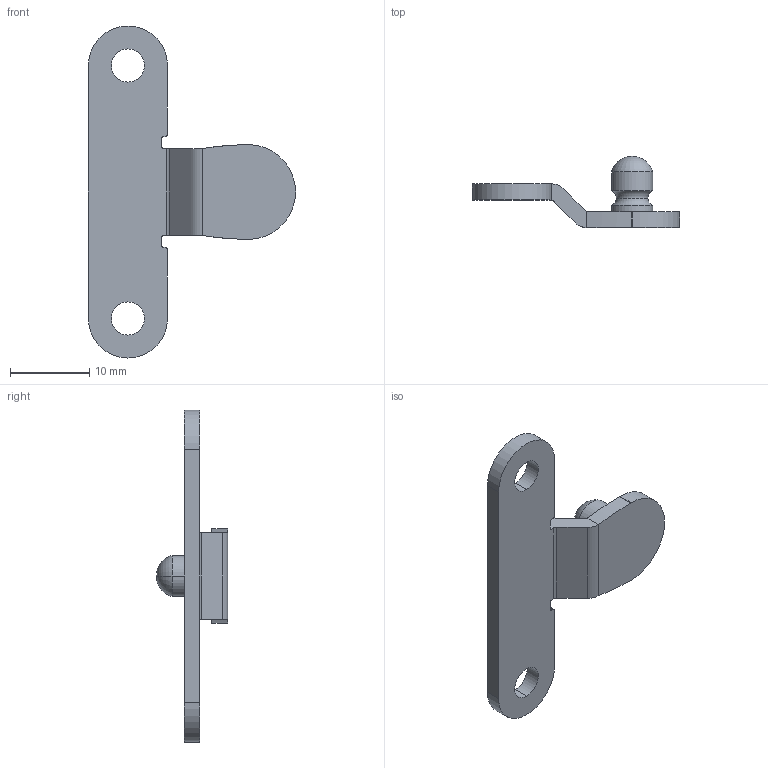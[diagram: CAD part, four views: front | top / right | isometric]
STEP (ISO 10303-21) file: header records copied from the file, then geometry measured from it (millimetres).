
FILE_DESCRIPTION (( 'STEP AP203' ), '1' );
FILE_NAME ('Anschraubwinkel_T-105_Alurahmen_D2659526125~0.step', '2012-05-04T06:19:48', ( 'admin' ), ( 'Hewlett-Packard Company' ), 'SwSTEP 2.0', 'SolidWorks 2011', '' );
FILE_SCHEMA (( 'CONFIG_CONTROL_DESIGN' ));
Length unit declared in the file: millimetre
Products named in the file (1): Anschraubwinkel_T-105_Alurahmen_D2659526125~0
Bounding box: 26.2 x 9 x 42 mm (x, y, z)
Volume: 1232.3 mm3; surface area: 1518.8 mm2
Topology: 1 solids, 1 shells, 47 faces, 127 edges, 81 vertices
Faces by surface type: cylinder 26, plane 15, torus 6
Entity records: 1572 total; most frequent: DIRECTION 277, CARTESIAN_POINT 266, ORIENTED_EDGE 250, EDGE_CURVE 125, AXIS2_PLACEMENT_3D 108, VERTEX_POINT 81, LINE 61, VECTOR 61
